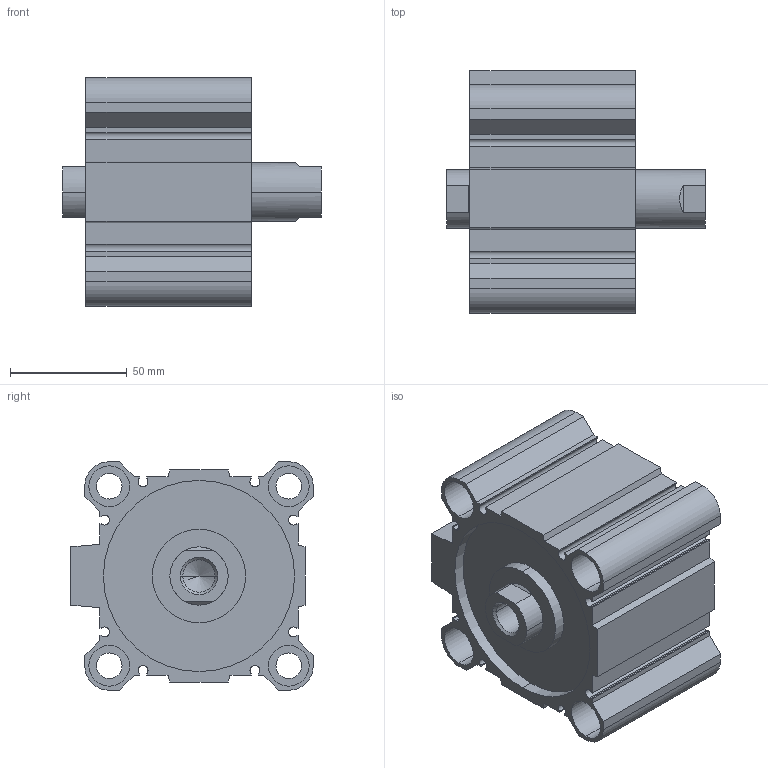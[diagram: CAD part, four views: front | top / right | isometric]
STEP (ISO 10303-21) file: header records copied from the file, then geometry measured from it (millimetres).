
FILE_DESCRIPTION (( 'STEP AP203' ), '1' );
FILE_NAME ('CCMB80-20F-P.STEP', '2020-08-05T11:49:13', ( '' ), ( '' ), 'SwSTEP 2.0', 'SolidWorks 2019', '' );
FILE_SCHEMA (( 'CONFIG_CONTROL_DESIGN' ));
Length unit declared in the file: millimetre
Products named in the file (1): CCMB80-20F-P
Bounding box: 111 x 104 x 98 mm (x, y, z)
Volume: 428324.8 mm3; surface area: 116371.2 mm2
Topology: 2 solids, 2 shells, 176 faces, 450 edges, 294 vertices
Faces by surface type: plane 90, cylinder 74, cone 12
Entity records: 5425 total; most frequent: DIRECTION 956, CARTESIAN_POINT 929, ORIENTED_EDGE 892, EDGE_CURVE 446, AXIS2_PLACEMENT_3D 337, VERTEX_POINT 294, VECTOR 282, LINE 282
